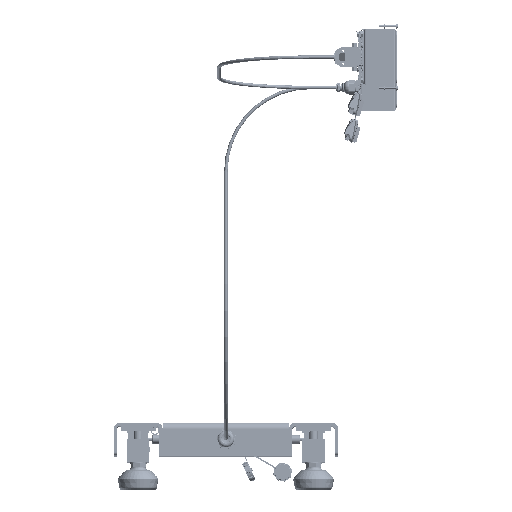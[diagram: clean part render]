
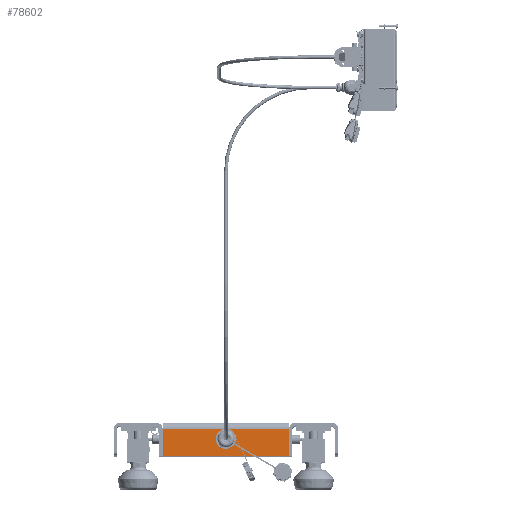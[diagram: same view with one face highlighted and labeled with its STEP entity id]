
A CAD part, top view. The second image highlights one B-rep face of the part: STEP entity #78602.
In plain terms, the highlighted planar face has unit normal (0, 0, 1) as drawn and (-1, 0, 0) by its records, which use the part's own axes.
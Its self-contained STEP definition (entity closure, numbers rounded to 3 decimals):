
#9881 = EDGE_CURVE ( 'NONE', #336217, #257632, #15989, .T. ) ;
#11011 = ORIENTED_EDGE ( 'NONE', *, *, #9881, .F. ) ;
#15989 = CIRCLE ( 'NONE', #133252, 7. ) ;
#17947 = VERTEX_POINT ( 'NONE', #296261 ) ;
#21241 = VECTOR ( 'NONE', #335650, 1000. ) ;
#27832 = CIRCLE ( 'NONE', #308018, 7. ) ;
#41527 = VECTOR ( 'NONE', #363439, 1000. ) ;
#50046 = CARTESIAN_POINT ( 'NONE',  ( -35., -4.762, 90. ) ) ;
#51086 = EDGE_CURVE ( 'NONE', #17947, #326787, #343741, .T. ) ;
#53321 = FACE_BOUND ( 'NONE', #141897, .T. ) ;
#60653 = DIRECTION ( 'NONE',  ( 0., -1., 0. ) ) ;
#68071 = CARTESIAN_POINT ( 'NONE',  ( -35., -4.762, 90. ) ) ;
#68555 = VERTEX_POINT ( 'NONE', #152116 ) ;
#78602 = ADVANCED_FACE ( 'NONE', ( #53321, #145251 ), #239083, .F. ) ;
#85916 = DIRECTION ( 'NONE',  ( 0., 1., 0. ) ) ;
#106207 = AXIS2_PLACEMENT_3D ( 'NONE', #177855, #116685, #85916 ) ;
#116685 = DIRECTION ( 'NONE',  ( 1., 0., 0. ) ) ;
#121652 = EDGE_LOOP ( 'NONE', ( #310961, #157313, #293328, #282085 ) ) ;
#133252 = AXIS2_PLACEMENT_3D ( 'NONE', #403669, #185200, #60653 ) ;
#141897 = EDGE_LOOP ( 'NONE', ( #11011, #367676 ) ) ;
#145251 = FACE_OUTER_BOUND ( 'NONE', #121652, .T. ) ;
#152116 = CARTESIAN_POINT ( 'NONE',  ( -35., -42.237, 90. ) ) ;
#154543 = CARTESIAN_POINT ( 'NONE',  ( -35., -42.238, -90. ) ) ;
#157313 = ORIENTED_EDGE ( 'NONE', *, *, #51086, .T. ) ;
#157521 = EDGE_CURVE ( 'NONE', #68555, #277409, #319994, .T. ) ;
#177855 = CARTESIAN_POINT ( 'NONE',  ( -35., 0., 0. ) ) ;
#185200 = DIRECTION ( 'NONE',  ( -1., 0., 0. ) ) ;
#185889 = VECTOR ( 'NONE', #287475, 1000. ) ;
#204264 = CARTESIAN_POINT ( 'NONE',  ( -35., -25.812, 0. ) ) ;
#238974 = LINE ( 'NONE', #394151, #41527 ) ;
#239083 = PLANE ( 'NONE',  #106207 ) ;
#246784 = DIRECTION ( 'NONE',  ( 0., -1., 0. ) ) ;
#257632 = VERTEX_POINT ( 'NONE', #362206 ) ;
#266538 = LINE ( 'NONE', #50046, #21241 ) ;
#273398 = CARTESIAN_POINT ( 'NONE',  ( -35., -18.812, 0. ) ) ;
#277409 = VERTEX_POINT ( 'NONE', #68071 ) ;
#282085 = ORIENTED_EDGE ( 'NONE', *, *, #157521, .T. ) ;
#287475 = DIRECTION ( 'NONE',  ( 0., 1., 0. ) ) ;
#293328 = ORIENTED_EDGE ( 'NONE', *, *, #378885, .T. ) ;
#296261 = CARTESIAN_POINT ( 'NONE',  ( -35., -4.762, -90. ) ) ;
#308018 = AXIS2_PLACEMENT_3D ( 'NONE', #273398, #336464, #246784 ) ;
#310961 = ORIENTED_EDGE ( 'NONE', *, *, #348578, .F. ) ;
#313204 = DIRECTION ( 'NONE',  ( 0., -1., 0. ) ) ;
#317970 = CARTESIAN_POINT ( 'NONE',  ( -35., 0., 90. ) ) ;
#319994 = LINE ( 'NONE', #317970, #185889 ) ;
#326787 = VERTEX_POINT ( 'NONE', #154543 ) ;
#335650 = DIRECTION ( 'NONE',  ( 0., 0., 1. ) ) ;
#336217 = VERTEX_POINT ( 'NONE', #204264 ) ;
#336464 = DIRECTION ( 'NONE',  ( -1., 0., 0. ) ) ;
#343741 = LINE ( 'NONE', #378554, #397389 ) ;
#348578 = EDGE_CURVE ( 'NONE', #17947, #277409, #266538, .T. ) ;
#362206 = CARTESIAN_POINT ( 'NONE',  ( -35., -11.812, 0. ) ) ;
#363439 = DIRECTION ( 'NONE',  ( 0., 0., 1. ) ) ;
#367676 = ORIENTED_EDGE ( 'NONE', *, *, #401325, .F. ) ;
#378554 = CARTESIAN_POINT ( 'NONE',  ( -35., 0., -90. ) ) ;
#378885 = EDGE_CURVE ( 'NONE', #326787, #68555, #238974, .T. ) ;
#394151 = CARTESIAN_POINT ( 'NONE',  ( -35., -42.238, 0. ) ) ;
#397389 = VECTOR ( 'NONE', #313204, 1000. ) ;
#401325 = EDGE_CURVE ( 'NONE', #257632, #336217, #27832, .T. ) ;
#403669 = CARTESIAN_POINT ( 'NONE',  ( -35., -18.812, 0. ) ) ;
